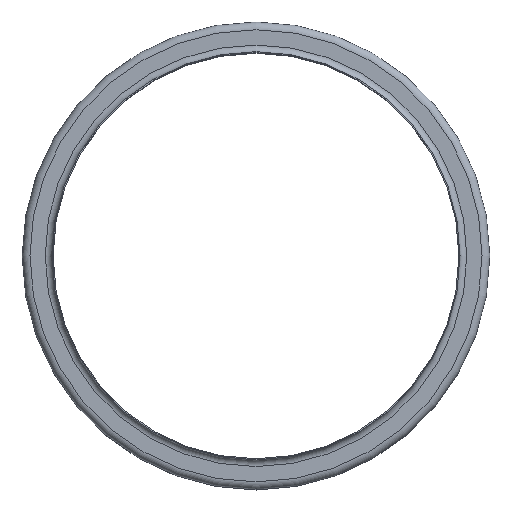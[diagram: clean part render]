
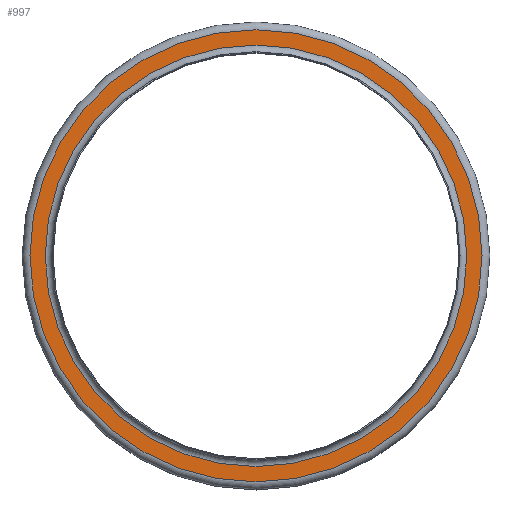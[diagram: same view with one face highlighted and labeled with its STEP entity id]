
A CAD part, top view. The second image highlights one B-rep face of the part: STEP entity #997.
In plain terms, the highlighted planar face has unit normal (0, 0, 1).
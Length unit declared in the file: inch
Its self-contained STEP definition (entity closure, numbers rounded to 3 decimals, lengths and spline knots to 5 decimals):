
#95=FACE_BOUND('',#269,.T.);
#162=FACE_OUTER_BOUND('',#268,.T.);
#268=EDGE_LOOP('',(#769));
#269=EDGE_LOOP('',(#770));
#382=CIRCLE('',#1186,7.268);
#383=CIRCLE('',#1188,7.7945);
#463=VERTEX_POINT('',#1810);
#464=VERTEX_POINT('',#1814);
#568=EDGE_CURVE('',#463,#463,#382,.T.);
#569=EDGE_CURVE('',#464,#464,#383,.T.);
#769=ORIENTED_EDGE('',*,*,#569,.F.);
#770=ORIENTED_EDGE('',*,*,#568,.T.);
#851=PLANE('',#1187);
#997=ADVANCED_FACE('',(#162,#95),#851,.T.);
#1186=AXIS2_PLACEMENT_3D('',#1812,#1522,#1523);
#1187=AXIS2_PLACEMENT_3D('',#1813,#1524,#1525);
#1188=AXIS2_PLACEMENT_3D('',#1815,#1526,#1527);
#1522=DIRECTION('center_axis',(0.,0.,-1.));
#1523=DIRECTION('ref_axis',(1.,0.,0.));
#1524=DIRECTION('center_axis',(0.,0.,1.));
#1525=DIRECTION('ref_axis',(1.,0.,0.));
#1526=DIRECTION('center_axis',(0.,0.,-1.));
#1527=DIRECTION('ref_axis',(1.,0.,0.));
#1810=CARTESIAN_POINT('',(7.268,0.,-0.232));
#1812=CARTESIAN_POINT('Origin',(0.,0.,-0.232));
#1813=CARTESIAN_POINT('Origin',(0.,7.7945,-0.232));
#1814=CARTESIAN_POINT('',(7.7945,0.,-0.232));
#1815=CARTESIAN_POINT('Origin',(0.,0.,-0.232));
